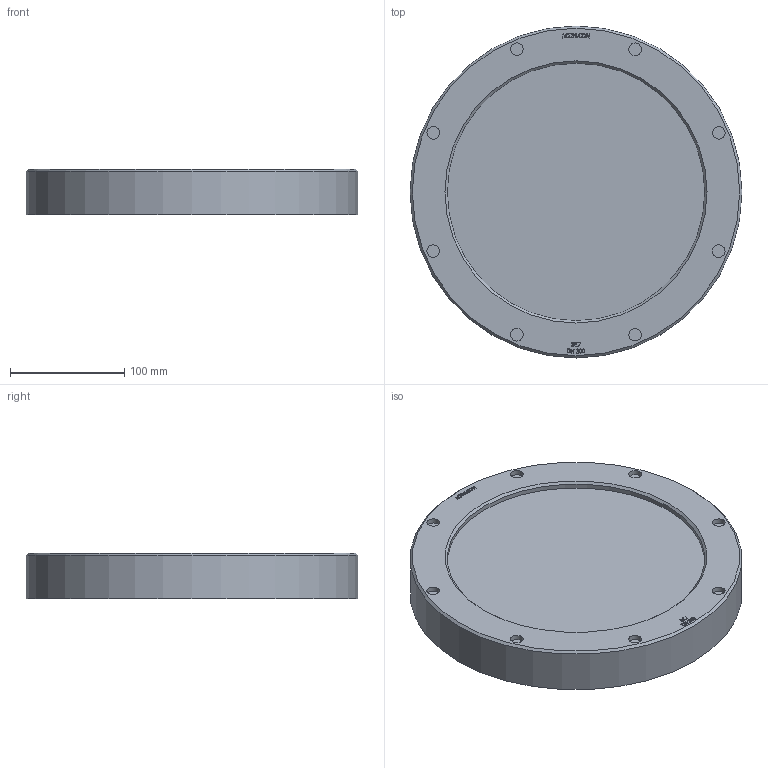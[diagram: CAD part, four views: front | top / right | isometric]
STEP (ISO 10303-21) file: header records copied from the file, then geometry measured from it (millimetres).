
FILE_DESCRIPTION(/* description */ (''),/* implementation_level */ '2;1');
FILE_NAME(/* name */ 'W:\Konstruktion_ACI\317\_STEP\ACI-317-200.stp',/* time_stamp */ '2022-03-02T17:53:16+01:00',/* author */ ('Travnicek'),/* organization */ (''),/* preprocessor_version */ 'ST-DEVELOPER v16.1',/* originating_system */ 'Autodesk Inventor 2016',/* authorisation */ '');
FILE_SCHEMA (('AUTOMOTIVE_DESIGN { 1 0 10303 214 3 1 1 }'));
Length unit declared in the file: centimetre
Products named in the file (1): ACI-317-200.stp
Bounding box: 290 x 290 x 40 mm (x, y, z)
Volume: 1993598.7 mm3; surface area: 177568.7 mm2
Topology: 1 solids, 1 shells, 284 faces, 744 edges, 495 vertices
Faces by surface type: plane 150, bspline 120, cylinder 11, cone 3
Full cylindrical faces by diameter (mm): 11 x8, 225 x2, 290 x1
Entity records: 9539 total; most frequent: CARTESIAN_POINT 3070, ORIENTED_EDGE 1460, DIRECTION 845, EDGE_CURVE 730, VERTEX_POINT 495, LINE 465, VECTOR 465, EDGE_LOOP 331
